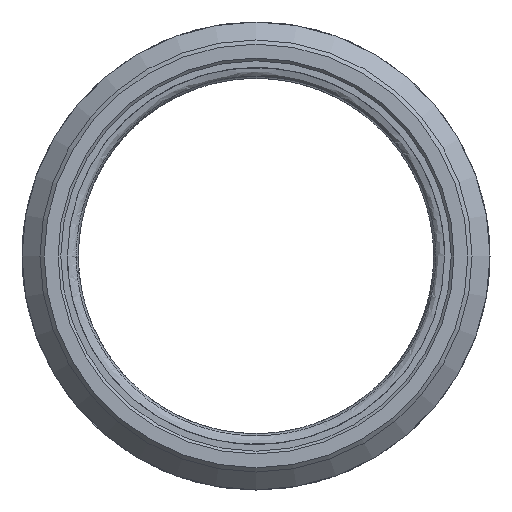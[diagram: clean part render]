
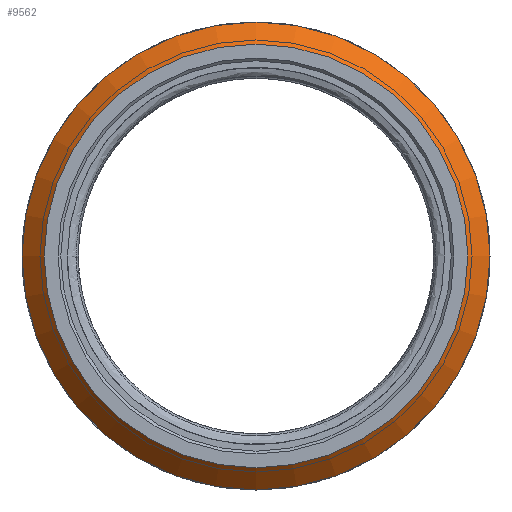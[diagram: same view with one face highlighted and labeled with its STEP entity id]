
A CAD part, left-side view. The second image highlights one B-rep face of the part: STEP entity #9562.
In plain terms, the highlighted conical face has half-angle 45 degrees and reference radius 21.1 mm.
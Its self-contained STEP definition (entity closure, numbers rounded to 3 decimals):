
#417 = EDGE_CURVE ( 'NONE', #6170, #6170, #10540, .T. ) ;
#2223 = DIRECTION ( 'NONE',  ( -1., 0., 0. ) ) ;
#2800 = ORIENTED_EDGE ( 'NONE', *, *, #417, .F. ) ;
#3008 = DIRECTION ( 'NONE',  ( 1., 0., 0. ) ) ;
#3013 = CONICAL_SURFACE ( 'NONE', #11167, 21.1, 0.785 ) ;
#3257 = CARTESIAN_POINT ( 'NONE',  ( -47., 21., -21.021 ) ) ;
#3407 = AXIS2_PLACEMENT_3D ( 'NONE', #6725, #12515, #10648 ) ;
#5003 = CARTESIAN_POINT ( 'NONE',  ( -47., 21., -42.121 ) ) ;
#5879 = VERTEX_POINT ( 'NONE', #5003 ) ;
#6170 = VERTEX_POINT ( 'NONE', #10975 ) ;
#6712 = ORIENTED_EDGE ( 'NONE', *, *, #9147, .T. ) ;
#6725 = CARTESIAN_POINT ( 'NONE',  ( -47., 21., -21.021 ) ) ;
#7446 = AXIS2_PLACEMENT_3D ( 'NONE', #8856, #2223, #10029 ) ;
#7536 = EDGE_LOOP ( 'NONE', ( #6712 ) ) ;
#7686 = CIRCLE ( 'NONE', #3407, 21.1 ) ;
#8095 = FACE_BOUND ( 'NONE', #9766, .T. ) ;
#8856 = CARTESIAN_POINT ( 'NONE',  ( -49., 21., -21.021 ) ) ;
#9147 = EDGE_CURVE ( 'NONE', #5879, #5879, #7686, .T. ) ;
#9562 = ADVANCED_FACE ( 'NONE', ( #9779, #8095 ), #3013, .T. ) ;
#9766 = EDGE_LOOP ( 'NONE', ( #2800 ) ) ;
#9779 = FACE_OUTER_BOUND ( 'NONE', #7536, .T. ) ;
#10029 = DIRECTION ( 'NONE',  ( 0., 0., -1. ) ) ;
#10540 = CIRCLE ( 'NONE', #7446, 19.1 ) ;
#10648 = DIRECTION ( 'NONE',  ( 0., 0., -1. ) ) ;
#10975 = CARTESIAN_POINT ( 'NONE',  ( -49., 21., -40.121 ) ) ;
#11045 = DIRECTION ( 'NONE',  ( 0., 0., -1. ) ) ;
#11167 = AXIS2_PLACEMENT_3D ( 'NONE', #3257, #3008, #11045 ) ;
#12515 = DIRECTION ( 'NONE',  ( -1., 0., 0. ) ) ;
